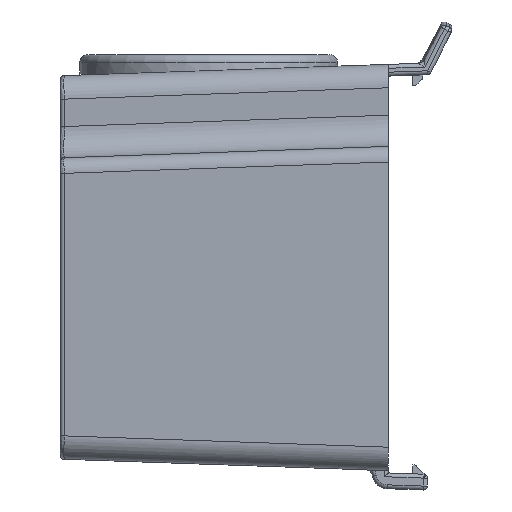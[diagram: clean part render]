
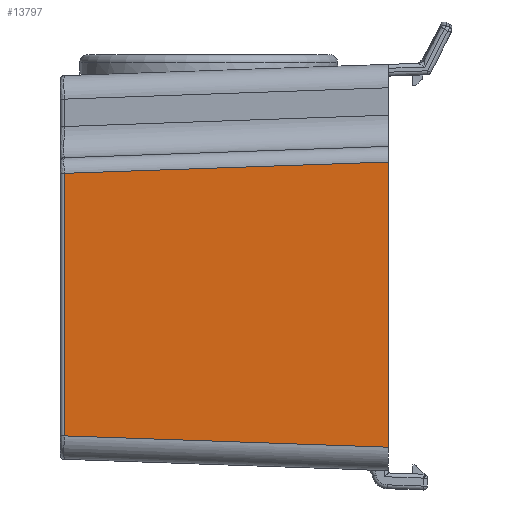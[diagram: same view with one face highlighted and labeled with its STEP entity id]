
A CAD part, left-side view. The second image highlights one B-rep face of the part: STEP entity #13797.
In plain terms, the highlighted planar face has unit normal (-0.999, 0.035, 0).
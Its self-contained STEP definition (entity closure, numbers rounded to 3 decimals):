
#22=CARTESIAN_POINT('',(-63.5,7.6,-22.002));
#30=DIRECTION('',(0.,0.,1.));
#31=VECTOR('',#30,36.503);
#32=CARTESIAN_POINT('',(-63.5,7.6,-22.002));
#33=LINE('',#32,#31);
#40=CARTESIAN_POINT('',(-63.5,7.6,14.501));
#4321=DIRECTION('',(0.,0.,1.));
#4322=VECTOR('',#4321,33.603);
#4323=CARTESIAN_POINT('',(-62.05,49.117,
-20.552));
#4324=LINE('',#4323,#4322);
#4325=DIRECTION('',(0.035,0.999,-0.035));
#4326=VECTOR('',#4325,41.568);
#4327=CARTESIAN_POINT('',(-63.5,7.6,14.501));
#4328=LINE('',#4327,#4326);
#4329=DIRECTION('',(-0.035,-0.999,-0.035));
#4330=VECTOR('',#4329,41.568);
#4331=CARTESIAN_POINT('',(-62.05,49.117,
-20.552));
#4332=LINE('',#4331,#4330);
#4343=CARTESIAN_POINT('',(-62.05,49.117,
-20.552));
#5509=VERTEX_POINT('',#22);
#5776=VERTEX_POINT('',#40);
#5807=VERTEX_POINT('',#4343);
#5810=CARTESIAN_POINT('',(-62.05,49.117,13.051));
#5811=VERTEX_POINT('',#5810);
#13785=CARTESIAN_POINT('',(-63.5,7.6,-27.2));
#13786=DIRECTION('',(-0.999,0.035,0.));
#13787=DIRECTION('',(0.,0.,-1.));
#13788=AXIS2_PLACEMENT_3D('',#13785,#13786,#13787);
#13789=PLANE('',#13788);
#13790=ORIENTED_EDGE('',*,*,#6834,.T.);
#13791=ORIENTED_EDGE('',*,*,#13780,.F.);
#13792=ORIENTED_EDGE('',*,*,#6557,.F.);
#13794=ORIENTED_EDGE('',*,*,#13793,.F.);
#13795=EDGE_LOOP('',(#13790,#13791,#13792,#13794));
#13796=FACE_OUTER_BOUND('',#13795,.F.);
#6557=EDGE_CURVE('',#5509,#5776,#33,.T.);
#6834=EDGE_CURVE('',#5807,#5811,#4324,.T.);
#13780=EDGE_CURVE('',#5776,#5811,#4328,.T.);
#13793=EDGE_CURVE('',#5807,#5509,#4332,.T.);
#13797=ADVANCED_FACE('',(#13796),#13789,.T.);
